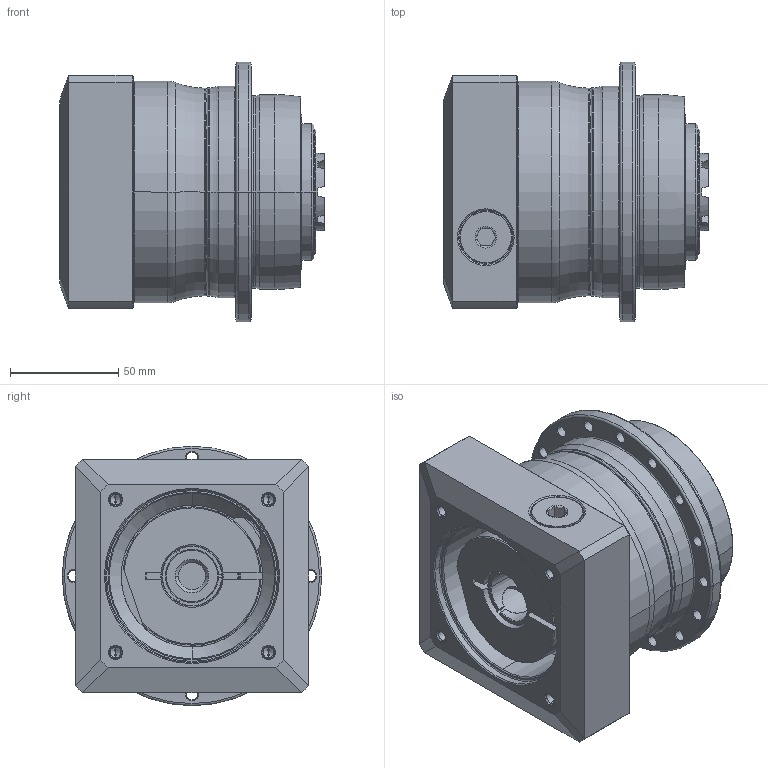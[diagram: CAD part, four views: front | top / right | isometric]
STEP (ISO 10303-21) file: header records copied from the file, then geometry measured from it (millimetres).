
FILE_DESCRIPTION((''),'2;1');
FILE_NAME('APC090_1ST_24-P0409510201_ASM','2018-10-23T',('d01226'),(''),'PRO/ENGINEER BY PARAMETRIC TECHNOLOGY CORPORATION, 2015240','PRO/ENGINEER BY PARAMETRIC TECHNOLOGY CORPORATION, 2015240','');
FILE_SCHEMA(('CONFIG_CONTROL_DESIGN'));
Length unit declared in the file: millimetre
Products named in the file (9): P0278301003; P0359330103; P1318310301; P0503500010; P0912303001; P1211300001; P0409510201; 21711418017; APC090_1ST_24-P0409510201_ASM
Assembly tree (8 placements, depth 2):
  APC090_1ST_24-P0409510201_ASM
    P0278301003
    P0359330103
    P1318310301
    P0503500010
    P0912303001
    P1211300001
    P0409510201
    21711418017
Bounding box: 122.4 x 120 x 120 mm (x, y, z)
Volume: 848908.3 mm3; surface area: 165683.3 mm2
Topology: 9 solids, 19 shells, 570 faces, 1368 edges, 837 vertices
Faces by surface type: cylinder 205, cone 171, plane 118, torus 62, bspline 14
Entity records: 21852 total; most frequent: CARTESIAN_POINT 8130, DIRECTION 3077, ORIENTED_EDGE 2666, EDGE_CURVE 1354, AXIS2_PLACEMENT_3D 1307, VERTEX_POINT 837, CIRCLE 724, EDGE_LOOP 655
